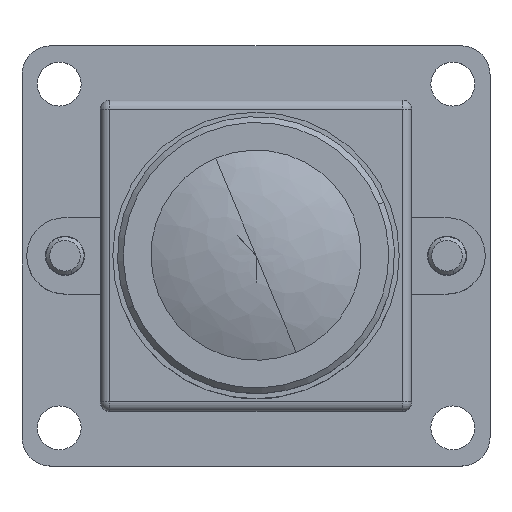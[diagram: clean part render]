
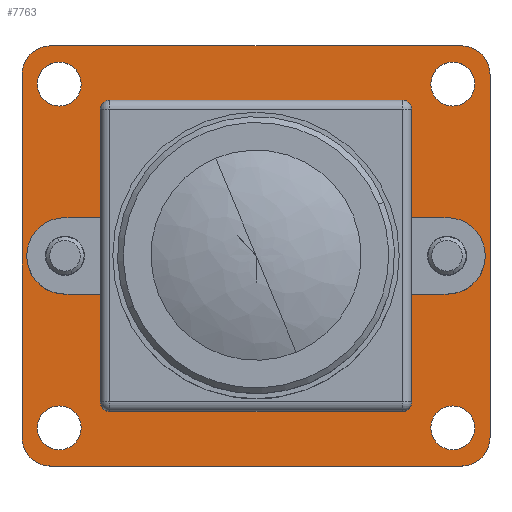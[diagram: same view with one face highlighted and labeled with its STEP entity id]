
A CAD part, top view. The second image highlights one B-rep face of the part: STEP entity #7763.
In plain terms, the highlighted planar face has unit normal (0, 0, 1).
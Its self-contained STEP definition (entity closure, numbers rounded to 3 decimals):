
#7252=CARTESIAN_POINT('',(7.781,-11.804,
-20.86));
#7253=DIRECTION('',(0.,0.,1.));
#7254=DIRECTION('',(-1.,0.001,0.));
#7255=AXIS2_PLACEMENT_3D('',#7252,#7253,#7254);
#7257=DIRECTION('',(0.,-1.,0.));
#7258=VECTOR('',#7257,19.);
#7259=CARTESIAN_POINT('',(6.283,7.197,-20.86));
#7260=LINE('',#7259,#7258);
#7261=CARTESIAN_POINT('',(7.781,7.198,-20.86));
#7262=DIRECTION('',(0.,0.,1.));
#7263=DIRECTION('',(0.001,1.,0.));
#7264=AXIS2_PLACEMENT_3D('',#7261,#7262,#7263);
#7266=DIRECTION('',(-1.,0.,0.));
#7267=VECTOR('',#7266,21.5);
#7268=CARTESIAN_POINT('',(29.283,8.697,-20.86));
#7269=LINE('',#7268,#7267);
#7270=CARTESIAN_POINT('',(29.284,7.198,-20.86));
#7271=DIRECTION('',(0.,0.,1.));
#7272=DIRECTION('',(1.,-0.002,0.));
#7273=AXIS2_PLACEMENT_3D('',#7270,#7271,#7272);
#7275=DIRECTION('',(0.,1.,0.));
#7276=VECTOR('',#7275,18.998);
#7277=CARTESIAN_POINT('',(30.783,-11.803,
-20.86));
#7278=LINE('',#7277,#7276);
#7279=CARTESIAN_POINT('',(29.284,-11.804,
-20.86));
#7280=DIRECTION('',(0.,0.,1.));
#7281=DIRECTION('',(-0.001,-1.,0.));
#7282=AXIS2_PLACEMENT_3D('',#7279,#7280,#7281);
#7284=DIRECTION('',(1.,0.,0.));
#7285=VECTOR('',#7284,21.5);
#7286=CARTESIAN_POINT('',(7.783,-13.303,
-20.86));
#7287=LINE('',#7286,#7285);
#7288=CARTESIAN_POINT('',(28.833,6.697,-20.86));
#7289=DIRECTION('',(0.,0.,-1.));
#7290=DIRECTION('',(-1.,0.,0.));
#7291=AXIS2_PLACEMENT_3D('',#7288,#7289,#7290);
#7293=CARTESIAN_POINT('',(28.833,6.697,-20.86));
#7294=DIRECTION('',(0.,0.,-1.));
#7295=DIRECTION('',(1.,0.,0.));
#7296=AXIS2_PLACEMENT_3D('',#7293,#7294,#7295);
#7298=CARTESIAN_POINT('',(28.533,-2.303,
-20.86));
#7299=DIRECTION('',(0.,0.,1.));
#7300=DIRECTION('',(1.,0.,0.));
#7301=AXIS2_PLACEMENT_3D('',#7298,#7299,#7300);
#7303=CARTESIAN_POINT('',(28.533,-2.303,
-20.86));
#7304=DIRECTION('',(0.,0.,1.));
#7305=DIRECTION('',(-1.,0.,0.));
#7306=AXIS2_PLACEMENT_3D('',#7303,#7304,#7305);
#7308=CARTESIAN_POINT('',(28.833,-11.303,
-20.86));
#7309=DIRECTION('',(0.,0.,-1.));
#7310=DIRECTION('',(-1.,0.,0.));
#7311=AXIS2_PLACEMENT_3D('',#7308,#7309,#7310);
#7313=CARTESIAN_POINT('',(28.833,-11.303,
-20.86));
#7314=DIRECTION('',(0.,0.,-1.));
#7315=DIRECTION('',(1.,0.,0.));
#7316=AXIS2_PLACEMENT_3D('',#7313,#7314,#7315);
#7318=CARTESIAN_POINT('',(8.533,-2.303,
-20.86));
#7319=DIRECTION('',(0.,0.,1.));
#7320=DIRECTION('',(1.,0.,0.));
#7321=AXIS2_PLACEMENT_3D('',#7318,#7319,#7320);
#7323=CARTESIAN_POINT('',(8.533,-2.303,
-20.86));
#7324=DIRECTION('',(0.,0.,1.));
#7325=DIRECTION('',(-1.,0.,0.));
#7326=AXIS2_PLACEMENT_3D('',#7323,#7324,#7325);
#7328=CARTESIAN_POINT('',(8.233,6.697,-20.86));
#7329=DIRECTION('',(0.,0.,-1.));
#7330=DIRECTION('',(-1.,0.,0.));
#7331=AXIS2_PLACEMENT_3D('',#7328,#7329,#7330);
#7333=CARTESIAN_POINT('',(8.233,6.697,-20.86));
#7334=DIRECTION('',(0.,0.,-1.));
#7335=DIRECTION('',(1.,0.,0.));
#7336=AXIS2_PLACEMENT_3D('',#7333,#7334,#7335);
#7338=CARTESIAN_POINT('',(8.233,-11.303,
-20.86));
#7339=DIRECTION('',(0.,0.,-1.));
#7340=DIRECTION('',(-1.,0.,0.));
#7341=AXIS2_PLACEMENT_3D('',#7338,#7339,#7340);
#7343=CARTESIAN_POINT('',(8.233,-11.303,
-20.86));
#7344=DIRECTION('',(0.,0.,-1.));
#7345=DIRECTION('',(1.,0.,0.));
#7346=AXIS2_PLACEMENT_3D('',#7343,#7344,#7345);
#7376=CARTESIAN_POINT('',(9.633,-2.303,
-20.86));
#7377=CARTESIAN_POINT('',(7.433,-2.303,
-20.86));
#7378=VERTEX_POINT('',#7376);
#7379=VERTEX_POINT('',#7377);
#7392=CARTESIAN_POINT('',(29.283,8.697,-20.86));
#7393=CARTESIAN_POINT('',(7.783,8.697,-20.86));
#7394=VERTEX_POINT('',#7392);
#7395=VERTEX_POINT('',#7393);
#7396=CARTESIAN_POINT('',(7.083,-11.303,
-20.86));
#7397=CARTESIAN_POINT('',(9.383,-11.303,
-20.86));
#7398=VERTEX_POINT('',#7396);
#7399=VERTEX_POINT('',#7397);
#7400=CARTESIAN_POINT('',(27.433,-2.303,
-20.86));
#7401=CARTESIAN_POINT('',(29.633,-2.303,
-20.86));
#7402=VERTEX_POINT('',#7400);
#7403=VERTEX_POINT('',#7401);
#7412=CARTESIAN_POINT('',(6.283,7.197,-20.86));
#7413=VERTEX_POINT('',#7412);
#7414=CARTESIAN_POINT('',(27.683,6.697,-20.86));
#7415=CARTESIAN_POINT('',(29.983,6.697,-20.86));
#7416=VERTEX_POINT('',#7414);
#7417=VERTEX_POINT('',#7415);
#7424=CARTESIAN_POINT('',(29.283,-13.303,
-20.86));
#7425=CARTESIAN_POINT('',(30.783,-11.803,
-20.86));
#7426=VERTEX_POINT('',#7424);
#7427=VERTEX_POINT('',#7425);
#7428=CARTESIAN_POINT('',(27.683,-11.303,
-20.86));
#7429=CARTESIAN_POINT('',(29.983,-11.303,
-20.86));
#7430=VERTEX_POINT('',#7428);
#7431=VERTEX_POINT('',#7429);
#7432=CARTESIAN_POINT('',(7.083,6.697,-20.86));
#7433=CARTESIAN_POINT('',(9.383,6.697,-20.86));
#7434=VERTEX_POINT('',#7432);
#7435=VERTEX_POINT('',#7433);
#7437=CARTESIAN_POINT('',(7.783,-13.303,
-20.86));
#7439=VERTEX_POINT('',#7437);
#7444=CARTESIAN_POINT('',(6.283,-11.803,
-20.86));
#7446=VERTEX_POINT('',#7444);
#7454=CARTESIAN_POINT('',(30.783,7.195,-20.86));
#7455=VERTEX_POINT('',#7454);
#7713=CARTESIAN_POINT('',(18.533,-2.303,
-20.86));
#7714=DIRECTION('',(0.,0.,-1.));
#7715=DIRECTION('',(0.,-1.,0.));
#7716=AXIS2_PLACEMENT_3D('',#7713,#7714,#7715);
#7717=PLANE('',#7716);
#7718=ORIENTED_EDGE('',*,*,#7577,.F.);
#7719=ORIENTED_EDGE('',*,*,#7555,.F.);
#7720=ORIENTED_EDGE('',*,*,#7533,.F.);
#7721=ORIENTED_EDGE('',*,*,#7511,.F.);
#7722=ORIENTED_EDGE('',*,*,#7489,.F.);
#7723=ORIENTED_EDGE('',*,*,#7467,.F.);
#7724=ORIENTED_EDGE('',*,*,#7620,.F.);
#7725=ORIENTED_EDGE('',*,*,#7599,.F.);
#7726=EDGE_LOOP('',(#7718,#7719,#7720,#7721,#7722,#7723,#7724,#7725));
#7727=FACE_OUTER_BOUND('',#7726,.F.);
#7728=ORIENTED_EDGE('',*,*,#7696,.F.);
#7730=ORIENTED_EDGE('',*,*,#7729,.F.);
#7731=EDGE_LOOP('',(#7728,#7730));
#7732=FACE_BOUND('',#7731,.F.);
#7734=ORIENTED_EDGE('',*,*,#7733,.T.);
#7736=ORIENTED_EDGE('',*,*,#7735,.T.);
#7737=EDGE_LOOP('',(#7734,#7736));
#7738=FACE_BOUND('',#7737,.F.);
#7740=ORIENTED_EDGE('',*,*,#7739,.F.);
#7742=ORIENTED_EDGE('',*,*,#7741,.F.);
#7743=EDGE_LOOP('',(#7740,#7742));
#7744=FACE_BOUND('',#7743,.F.);
#7746=ORIENTED_EDGE('',*,*,#7745,.T.);
#7748=ORIENTED_EDGE('',*,*,#7747,.T.);
#7749=EDGE_LOOP('',(#7746,#7748));
#7750=FACE_BOUND('',#7749,.F.);
#7752=ORIENTED_EDGE('',*,*,#7751,.F.);
#7754=ORIENTED_EDGE('',*,*,#7753,.F.);
#7755=EDGE_LOOP('',(#7752,#7754));
#7756=FACE_BOUND('',#7755,.F.);
#7758=ORIENTED_EDGE('',*,*,#7757,.F.);
#7760=ORIENTED_EDGE('',*,*,#7759,.F.);
#7761=EDGE_LOOP('',(#7758,#7760));
#7762=FACE_BOUND('',#7761,.F.);
#7256=CIRCLE('',#7255,1.499);
#7265=CIRCLE('',#7264,1.499);
#7274=CIRCLE('',#7273,1.499);
#7283=CIRCLE('',#7282,1.499);
#7292=CIRCLE('',#7291,1.15);
#7297=CIRCLE('',#7296,1.15);
#7302=CIRCLE('',#7301,1.1);
#7307=CIRCLE('',#7306,1.1);
#7312=CIRCLE('',#7311,1.15);
#7317=CIRCLE('',#7316,1.15);
#7322=CIRCLE('',#7321,1.1);
#7327=CIRCLE('',#7326,1.1);
#7332=CIRCLE('',#7331,1.15);
#7337=CIRCLE('',#7336,1.15);
#7342=CIRCLE('',#7341,1.15);
#7347=CIRCLE('',#7346,1.15);
#7467=EDGE_CURVE('',#7427,#7455,#7278,.T.);
#7489=EDGE_CURVE('',#7455,#7394,#7274,.T.);
#7511=EDGE_CURVE('',#7394,#7395,#7269,.T.);
#7533=EDGE_CURVE('',#7395,#7413,#7265,.T.);
#7555=EDGE_CURVE('',#7413,#7446,#7260,.T.);
#7577=EDGE_CURVE('',#7446,#7439,#7256,.T.);
#7599=EDGE_CURVE('',#7439,#7426,#7287,.T.);
#7620=EDGE_CURVE('',#7426,#7427,#7283,.T.);
#7696=EDGE_CURVE('',#7416,#7417,#7292,.T.);
#7729=EDGE_CURVE('',#7417,#7416,#7297,.T.);
#7733=EDGE_CURVE('',#7403,#7402,#7302,.T.);
#7735=EDGE_CURVE('',#7402,#7403,#7307,.T.);
#7739=EDGE_CURVE('',#7430,#7431,#7312,.T.);
#7741=EDGE_CURVE('',#7431,#7430,#7317,.T.);
#7745=EDGE_CURVE('',#7378,#7379,#7322,.T.);
#7747=EDGE_CURVE('',#7379,#7378,#7327,.T.);
#7751=EDGE_CURVE('',#7434,#7435,#7332,.T.);
#7753=EDGE_CURVE('',#7435,#7434,#7337,.T.);
#7757=EDGE_CURVE('',#7398,#7399,#7342,.T.);
#7759=EDGE_CURVE('',#7399,#7398,#7347,.T.);
#7763=ADVANCED_FACE('',(#7727,#7732,#7738,#7744,#7750,#7756,#7762),#7717,.F.);
